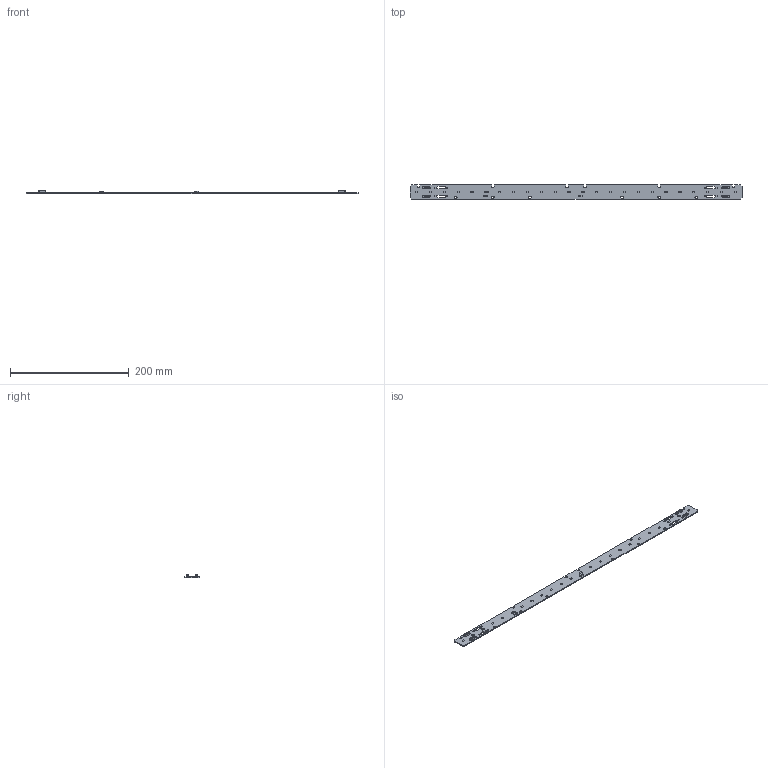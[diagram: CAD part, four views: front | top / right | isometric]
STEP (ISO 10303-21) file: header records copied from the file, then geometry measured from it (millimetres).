
FILE_DESCRIPTION((''),'2;1');
FILE_NAME('16212221_LLE-G6-24X560-1300-LV','2023-01-30T14:45:16',('Bernhard.Fink'),(''),'CREO PARAMETRIC BY PTC INC, 2021184','CREO PARAMETRIC BY PTC INC, 2021184','');
FILE_SCHEMA(('CONFIG_CONTROL_DESIGN'));
Products named in the file (1): 16212221_LLE-G6-24X560-1300-LV
Bounding box: 559 x 23.6 x 5.1 mm (x, y, z)
Volume: 21256.4 mm3; surface area: 28992.9 mm2
Topology: 1 solids, 25 shells, 2281 faces, 6378 edges, 4164 vertices
Faces by surface type: plane 1373, cylinder 564, bspline 208, cone 64, sphere 40, torus 32
Entity records: 126784 total; most frequent: CARTESIAN_POINT 71565, ORIENTED_EDGE 12396, DIRECTION 9706, EDGE_CURVE 6362, VECTOR 4278, LINE 4278, VERTEX_POINT 4156, AXIS2_PLACEMENT_3D 2714
